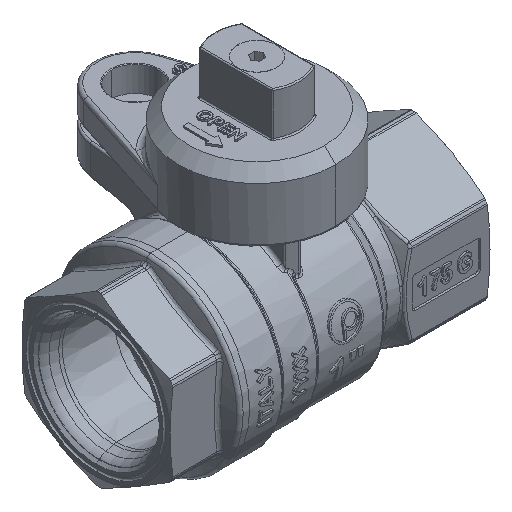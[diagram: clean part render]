
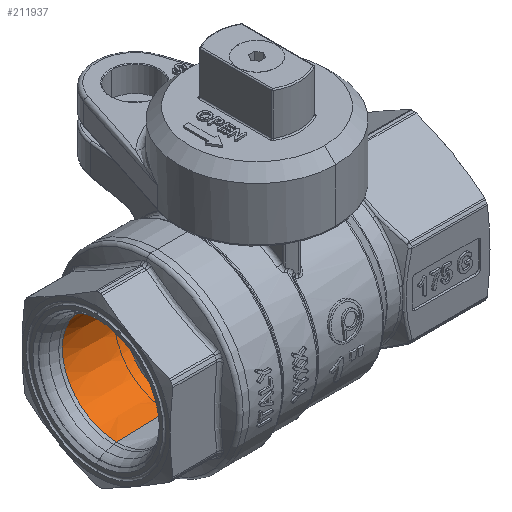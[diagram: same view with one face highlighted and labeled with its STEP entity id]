
A CAD part, isometric view. The second image highlights one B-rep face of the part: STEP entity #211937.
In plain terms, the highlighted conical face has half-angle 1.78 degrees and reference radius 14.438 mm.
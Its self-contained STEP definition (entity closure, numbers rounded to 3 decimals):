
#211842 = TOROIDAL_SURFACE('',#211843,18.685,4.);
#211843 = AXIS2_PLACEMENT_3D('',#211844,#211845,#211846);
#211844 = CARTESIAN_POINT('',(-37.846,-22.842,
    15.625));
#211845 = DIRECTION('',(-1.,0.,0.));
#211846 = DIRECTION('',(0.,-0.008,1.));
#211858 = VERTEX_POINT('',#211859);
#211859 = CARTESIAN_POINT('',(-37.971,-22.842,
    30.312));
#211888 = VERTEX_POINT('',#211889);
#211889 = CARTESIAN_POINT('',(-37.971,-22.842,
    0.938));
#211911 = EDGE_CURVE('',#211858,#211888,#211912,.T.);
#211912 = SURFACE_CURVE('',#211913,(#211918,#211925),.PCURVE_S1.);
#211913 = CIRCLE('',#211914,14.687);
#211914 = AXIS2_PLACEMENT_3D('',#211915,#211916,#211917);
#211915 = CARTESIAN_POINT('',(-37.971,-22.842,
    15.625));
#211916 = DIRECTION('',(-1.,0.,0.));
#211917 = DIRECTION('',(0.,0.,1.));
#211918 = PCURVE('',#211842,#211919);
#211919 = DEFINITIONAL_REPRESENTATION('',(#211920),#211924);
#211920 = LINE('',#211921,#211922);
#211921 = CARTESIAN_POINT('',(0.008,3.111));
#211922 = VECTOR('',#211923,1.);
#211923 = DIRECTION('',(1.,0.));
#211924 = ( GEOMETRIC_REPRESENTATION_CONTEXT(2) 
PARAMETRIC_REPRESENTATION_CONTEXT() REPRESENTATION_CONTEXT('2D SPACE',''
  ) );
#211925 = PCURVE('',#211926,#211931);
#211926 = CONICAL_SURFACE('',#211927,14.438,0.031);
#211927 = AXIS2_PLACEMENT_3D('',#211928,#211929,#211930);
#211928 = CARTESIAN_POINT('',(-29.985,-22.842,
    15.625));
#211929 = DIRECTION('',(-1.,0.,0.));
#211930 = DIRECTION('',(0.,0.,1.));
#211931 = DEFINITIONAL_REPRESENTATION('',(#211932),#211936);
#211932 = LINE('',#211933,#211934);
#211933 = CARTESIAN_POINT('',(0.,7.985));
#211934 = VECTOR('',#211935,1.);
#211935 = DIRECTION('',(1.,0.));
#211936 = ( GEOMETRIC_REPRESENTATION_CONTEXT(2) 
PARAMETRIC_REPRESENTATION_CONTEXT() REPRESENTATION_CONTEXT('2D SPACE',''
  ) );
#211937 = ADVANCED_FACE('',(#211938),#211926,.F.);
#211938 = FACE_BOUND('',#211939,.T.);
#211939 = EDGE_LOOP('',(#211940,#211968,#211997,#212018));
#211940 = ORIENTED_EDGE('',*,*,#211941,.T.);
#211941 = EDGE_CURVE('',#211888,#211942,#211944,.T.);
#211942 = VERTEX_POINT('',#211943);
#211943 = CARTESIAN_POINT('',(-22.,-22.842,1.435));
#211944 = SURFACE_CURVE('',#211945,(#211949,#211956),.PCURVE_S1.);
#211945 = LINE('',#211946,#211947);
#211946 = CARTESIAN_POINT('',(-37.971,-22.842,
    0.938));
#211947 = VECTOR('',#211948,1.);
#211948 = DIRECTION('',(1.,0.,
    0.031));
#211949 = PCURVE('',#211926,#211950);
#211950 = DEFINITIONAL_REPRESENTATION('',(#211951),#211955);
#211951 = LINE('',#211952,#211953);
#211952 = CARTESIAN_POINT('',(3.142,7.985));
#211953 = VECTOR('',#211954,1.);
#211954 = DIRECTION('',(0.,-1.));
#211955 = ( GEOMETRIC_REPRESENTATION_CONTEXT(2) 
PARAMETRIC_REPRESENTATION_CONTEXT() REPRESENTATION_CONTEXT('2D SPACE',''
  ) );
#211956 = PCURVE('',#211957,#211962);
#211957 = CONICAL_SURFACE('',#211958,14.438,0.031);
#211958 = AXIS2_PLACEMENT_3D('',#211959,#211960,#211961);
#211959 = CARTESIAN_POINT('',(-29.985,-22.842,
    15.625));
#211960 = DIRECTION('',(-1.,0.,0.));
#211961 = DIRECTION('',(0.,0.,1.));
#211962 = DEFINITIONAL_REPRESENTATION('',(#211963),#211967);
#211963 = LINE('',#211964,#211965);
#211964 = CARTESIAN_POINT('',(3.142,7.985));
#211965 = VECTOR('',#211966,1.);
#211966 = DIRECTION('',(0.,-1.));
#211967 = ( GEOMETRIC_REPRESENTATION_CONTEXT(2) 
PARAMETRIC_REPRESENTATION_CONTEXT() REPRESENTATION_CONTEXT('2D SPACE',''
  ) );
#211968 = ORIENTED_EDGE('',*,*,#211969,.T.);
#211969 = EDGE_CURVE('',#211942,#211970,#211972,.T.);
#211970 = VERTEX_POINT('',#211971);
#211971 = CARTESIAN_POINT('',(-22.,-22.842,29.815));
#211972 = SURFACE_CURVE('',#211973,(#211978,#211985),.PCURVE_S1.);
#211973 = CIRCLE('',#211974,14.19);
#211974 = AXIS2_PLACEMENT_3D('',#211975,#211976,#211977);
#211975 = CARTESIAN_POINT('',(-22.,-22.842,15.625));
#211976 = DIRECTION('',(1.,0.,0.));
#211977 = DIRECTION('',(0.,0.,-1.));
#211978 = PCURVE('',#211926,#211979);
#211979 = DEFINITIONAL_REPRESENTATION('',(#211980),#211984);
#211980 = LINE('',#211981,#211982);
#211981 = CARTESIAN_POINT('',(3.142,-7.985));
#211982 = VECTOR('',#211983,1.);
#211983 = DIRECTION('',(-1.,0.));
#211984 = ( GEOMETRIC_REPRESENTATION_CONTEXT(2) 
PARAMETRIC_REPRESENTATION_CONTEXT() REPRESENTATION_CONTEXT('2D SPACE',''
  ) );
#211985 = PCURVE('',#211986,#211991);
#211986 = CONICAL_SURFACE('',#211987,13.345,1.309);
#211987 = AXIS2_PLACEMENT_3D('',#211988,#211989,#211990);
#211988 = CARTESIAN_POINT('',(-21.774,-22.842,
    15.625));
#211989 = DIRECTION('',(-1.,0.,0.));
#211990 = DIRECTION('',(0.,0.,1.));
#211991 = DEFINITIONAL_REPRESENTATION('',(#211992),#211996);
#211992 = LINE('',#211993,#211994);
#211993 = CARTESIAN_POINT('',(3.142,0.226));
#211994 = VECTOR('',#211995,1.);
#211995 = DIRECTION('',(-1.,0.));
#211996 = ( GEOMETRIC_REPRESENTATION_CONTEXT(2) 
PARAMETRIC_REPRESENTATION_CONTEXT() REPRESENTATION_CONTEXT('2D SPACE',''
  ) );
#211997 = ORIENTED_EDGE('',*,*,#211998,.F.);
#211998 = EDGE_CURVE('',#211858,#211970,#211999,.T.);
#211999 = SURFACE_CURVE('',#212000,(#212004,#212011),.PCURVE_S1.);
#212000 = LINE('',#212001,#212002);
#212001 = CARTESIAN_POINT('',(-37.971,-22.842,
    30.312));
#212002 = VECTOR('',#212003,1.);
#212003 = DIRECTION('',(1.,0.,
    -0.031));
#212004 = PCURVE('',#211926,#212005);
#212005 = DEFINITIONAL_REPRESENTATION('',(#212006),#212010);
#212006 = LINE('',#212007,#212008);
#212007 = CARTESIAN_POINT('',(0.,7.985));
#212008 = VECTOR('',#212009,1.);
#212009 = DIRECTION('',(0.,-1.));
#212010 = ( GEOMETRIC_REPRESENTATION_CONTEXT(2) 
PARAMETRIC_REPRESENTATION_CONTEXT() REPRESENTATION_CONTEXT('2D SPACE',''
  ) );
#212011 = PCURVE('',#211957,#212012);
#212012 = DEFINITIONAL_REPRESENTATION('',(#212013),#212017);
#212013 = LINE('',#212014,#212015);
#212014 = CARTESIAN_POINT('',(6.283,7.985));
#212015 = VECTOR('',#212016,1.);
#212016 = DIRECTION('',(0.,-1.));
#212017 = ( GEOMETRIC_REPRESENTATION_CONTEXT(2) 
PARAMETRIC_REPRESENTATION_CONTEXT() REPRESENTATION_CONTEXT('2D SPACE',''
  ) );
#212018 = ORIENTED_EDGE('',*,*,#211911,.T.);
